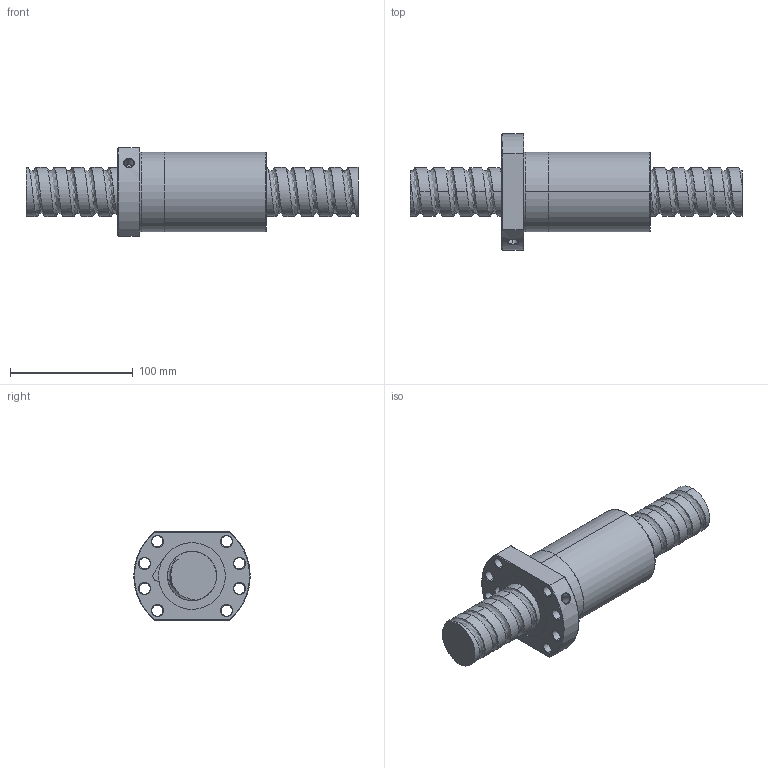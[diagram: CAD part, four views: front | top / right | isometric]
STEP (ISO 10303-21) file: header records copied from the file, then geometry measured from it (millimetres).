
FILE_DESCRIPTION (( 'STEP AP214' ), '1' );
FILE_NAME ('FSDC04015T5F-C.STEP', '2010-06-25T12:18:53', ( 'XPAUTO' ), ( 'XPAUTO' ), 'SwSTEP 2.0', 'SolidWorks 2007', '' );
FILE_SCHEMA (( 'AUTOMOTIVE_DESIGN' ));
Length unit declared in the file: millimetre
Products named in the file (3): FSDC04015T5F-C.sldasm-Part-1_預設; FSDC04015T5F-C; FSDC04015T5F-C.sldasm-Part-2_預設
Assembly tree (2 placements, depth 2):
  FSDC04015T5F-C
    FSDC04015T5F-C.sldasm-Part-1_預設
    FSDC04015T5F-C.sldasm-Part-2_預設
Bounding box: 271 x 95 x 72 mm (x, y, z)
Volume: 601936.4 mm3; surface area: 95532.6 mm2
Topology: 2 solids, 2 shells, 146 faces, 364 edges, 227 vertices
Faces by surface type: cylinder 81, cone 32, plane 22, torus 6, bspline 5
Entity records: 26875 total; most frequent: CARTESIAN_POINT 23399, ORIENTED_EDGE 728, DIRECTION 678, EDGE_CURVE 364, AXIS2_PLACEMENT_3D 274, VERTEX_POINT 227, EDGE_LOOP 171, FACE_OUTER_BOUND 146
